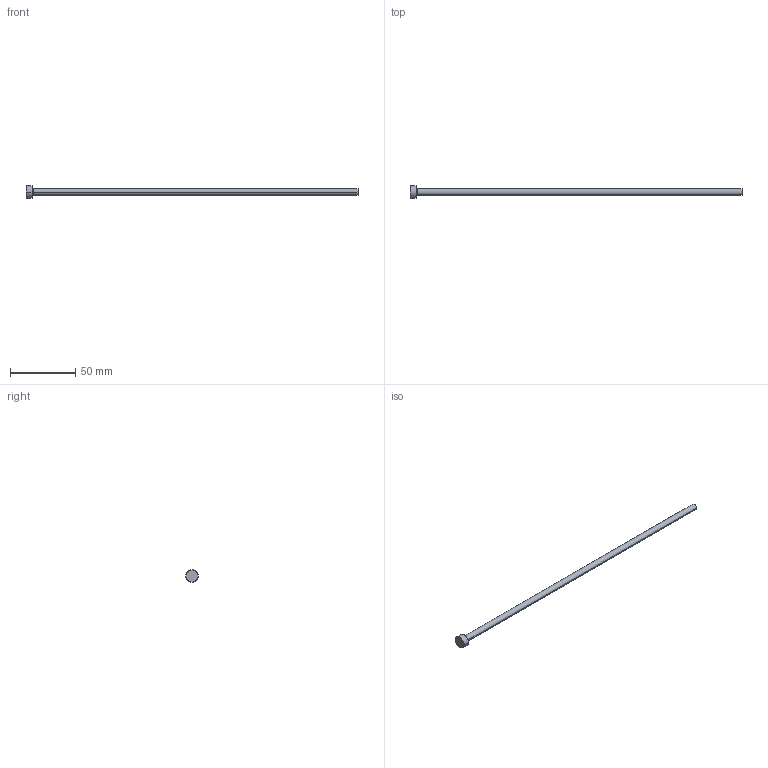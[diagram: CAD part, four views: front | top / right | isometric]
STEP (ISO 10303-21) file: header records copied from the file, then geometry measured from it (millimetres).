
FILE_DESCRIPTION (( 'STEP AP214' ), '1' );
FILE_NAME ('P13-10.STEP', '2020-03-11T18:19:21', ( '' ), ( '' ), 'SwSTEP 2.0', 'SolidWorks 2018', '' );
FILE_SCHEMA (( 'AUTOMOTIVE_DESIGN' ));
Length unit declared in the file: inch
Products named in the file (1): P13-10
Bounding box: 254 x 9.53 x 9.53 mm (x, y, z)
Volume: 4766.7 mm3; surface area: 3999.9 mm2
Topology: 1 solids, 1 shells, 13 faces, 24 edges, 14 vertices
Faces by surface type: cone 4, cylinder 4, plane 3, torus 2
Entity records: 366 total; most frequent: DIRECTION 68, CARTESIAN_POINT 52, ORIENTED_EDGE 48, AXIS2_PLACEMENT_3D 30, EDGE_CURVE 24, CIRCLE 16, EDGE_LOOP 14, VERTEX_POINT 14
